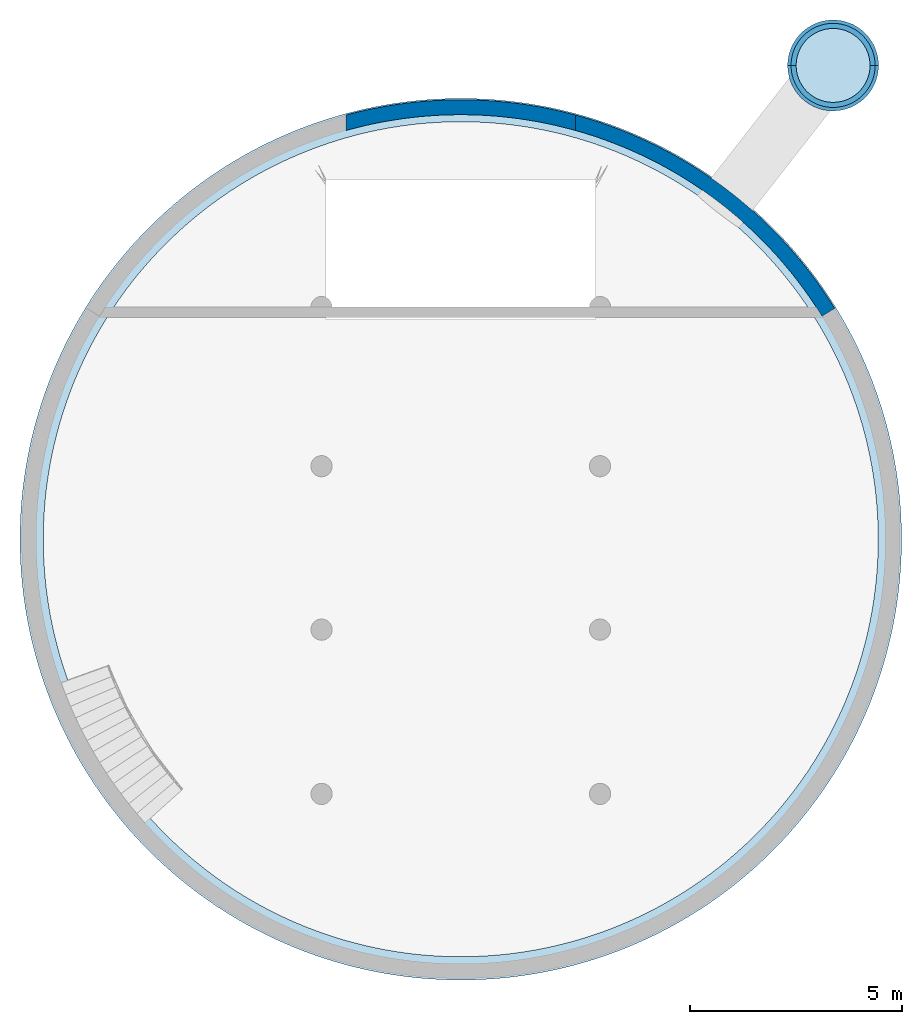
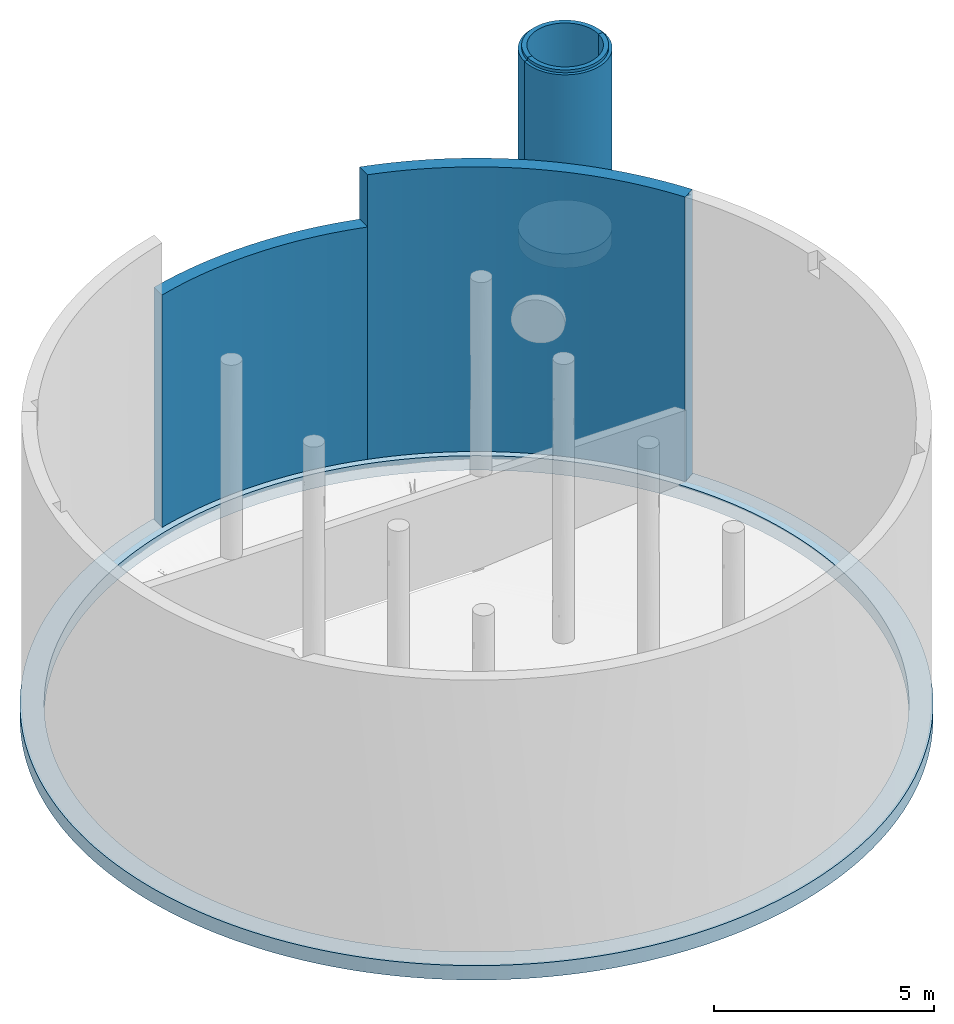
# One storey, part 1 of 5: 4 walls, 2 slabs, 3 openings.
"""IFC2X3 building model written with IfcOpenShell, lengths in centimetres."""

from ifc_helpers import new_model, entity, si_unit, converted_unit, derived_unit, direction, frame, frame_2d, origin, origin_2d_with_axis, place, context, subcontext, project, spatial, polyline, circle_curve, parameter, trimmed, segment, composite_curve, circle, outline, extrude, clip, halfspace, bounded_halfspace, material, layer, layer_set, layer_usage, type_object, element, save


model = new_model("IFC2X3")

# Units and contexts
model_context = context("Model", 3, precision=0.001, world=origin(), true_north=direction((6.12303176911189e-17, 1.0)))
body_context = subcontext(model_context, "Body", "Model", "MODEL_VIEW")
ifc_project = project(units=[si_unit("LENGTHUNIT", "METRE", prefix="CENTI"), si_unit("AREAUNIT", "SQUARE_METRE"), si_unit("VOLUMEUNIT", "CUBIC_METRE"), converted_unit("PLANEANGLEUNIT", "DEGREE", entity("IfcRatioMeasure", 0.0174532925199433), si_unit("PLANEANGLEUNIT", "RADIAN"), dimensions=[0, 0, 0, 0, 0, 0, 0]), si_unit("MASSUNIT", "GRAM", prefix="KILO"), derived_unit("MASSDENSITYUNIT", [(si_unit("MASSUNIT", "GRAM", prefix="KILO"), 1), (si_unit("LENGTHUNIT", "METRE"), -3)]), si_unit("TIMEUNIT", "SECOND"), si_unit("FREQUENCYUNIT", "HERTZ"), si_unit("THERMODYNAMICTEMPERATUREUNIT", "DEGREE_CELSIUS"), derived_unit("THERMALTRANSMITTANCEUNIT", [(si_unit("MASSUNIT", "GRAM", prefix="KILO"), 1), (si_unit("THERMODYNAMICTEMPERATUREUNIT", "KELVIN"), -1), (si_unit("TIMEUNIT", "SECOND"), -3)]), derived_unit("VOLUMETRICFLOWRATEUNIT", [(si_unit("LENGTHUNIT", "METRE"), 3), (si_unit("TIMEUNIT", "SECOND"), -1)]), si_unit("ELECTRICCURRENTUNIT", "AMPERE"), si_unit("ELECTRICVOLTAGEUNIT", "VOLT"), si_unit("POWERUNIT", "WATT"), si_unit("FORCEUNIT", "NEWTON", prefix="KILO"), si_unit("ILLUMINANCEUNIT", "LUX"), si_unit("LUMINOUSFLUXUNIT", "LUMEN"), si_unit("LUMINOUSINTENSITYUNIT", "CANDELA"), derived_unit("USERDEFINED", [(si_unit("MASSUNIT", "GRAM", prefix="KILO"), -1), (si_unit("LENGTHUNIT", "METRE"), -2), (si_unit("TIMEUNIT", "SECOND"), 3), (si_unit("LUMINOUSFLUXUNIT", "LUMEN"), 1)]), derived_unit("LINEARVELOCITYUNIT", [(si_unit("LENGTHUNIT", "METRE"), 1), (si_unit("TIMEUNIT", "SECOND"), -1)]), si_unit("PRESSUREUNIT", "PASCAL"), derived_unit("USERDEFINED", [(si_unit("LENGTHUNIT", "METRE"), -2), (si_unit("MASSUNIT", "GRAM", prefix="KILO"), 1), (si_unit("TIMEUNIT", "SECOND"), -2)])], contexts=[model_context])

# Site, building, storey
site_placement = place(None, origin())
site = spatial("IfcSite", under=ifc_project, at=site_placement, Name="Default", CompositionType="ELEMENT")
building_placement = place(site_placement, origin())
building = spatial("IfcBuilding", under=site, at=building_placement, CompositionType="ELEMENT")
storey_placement = place(building_placement, frame((0.0, 0.0, -870.0)))
storey = spatial("IfcBuildingStorey", under=building, at=storey_placement, Name="Niveau haut radier", CompositionType="ELEMENT", Elevation=-870.000000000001)

# Slab, opening
ifc_material_1 = material(Name="Béton, coulé sur place")
ifc_layer_1 = layer(ifc_material_1, 40.0)
ifc_layer_set_1 = layer_set([ifc_layer_1], Name="Sol:Béton - 400mm JBTP")
ifc_layer_usage_1 = layer_usage(ifc_layer_set_1, "AXIS3", "POSITIVE", 0.0)
slab_1_placement = place(storey_placement, frame((-1038.25326691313, -1038.25326691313, -40.0)))
slab_1 = element("IfcSlab", 1, at=slab_1_placement, inside=storey, material=ifc_layer_usage_1, Name="Sol:Béton - 400mm JBTP", ObjectType="Sol:Béton - 400mm JBTP", PredefinedType="FLOOR", context=body_context, shape_type="SweptSolid", body=[
    extrude(circle(Radius=1038.25326691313, at=origin_2d_with_axis()), frame((1038.25326691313, 1038.25326691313, 40.0), z_axis=(0.0, 0.0, -1.0), x_axis=(-1.0, 0.0, 0.0)), (0.0, 0.0, 1.0), 40.0),
])
opening_1_placement = place(slab_1_placement, frame((1038.25326691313, 1038.25326691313, 40.0)))
element("IfcOpeningElement", 2, at=opening_1_placement, cuts=slab_1, Name="Sol:Béton - 400mm JBTP:2", ObjectType="Opening", context=body_context, shape_type="SweptSolid", body=[
    extrude(circle(Radius=983.253266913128, at=origin_2d_with_axis()), frame((0.0, 0.0, 0.0), z_axis=(0.0, 0.0, -1.0), x_axis=(1.0, 0.0, 0.0)), (0.0, 0.0, 1.0), 40.0),
])

# Slab
ifc_layer_usage_2 = layer_usage(ifc_layer_set_1, "AXIS3", "POSITIVE", 0.0)
slab_2_placement = place(storey_placement, origin())
element("IfcSlab", 3, at=slab_2_placement, inside=storey, material=ifc_layer_usage_2, Name="Sol:Béton - 400mm JBTP", ObjectType="Sol:Béton - 400mm JBTP", PredefinedType="FLOOR", context=body_context, shape_type="SweptSolid", body=[
    extrude(circle(Radius=107.0, at=frame_2d((-1.0828671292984e-13, 2.16573425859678e-13), x_axis=(1.0, 0.0))), frame((876.967590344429, 1116.02359988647, 340.0), z_axis=(0.0, 0.0, -1.0), x_axis=(-1.0, 0.0, 0.0)), (0.0, 0.0, 1.0), 40.0),
])

# Walls
ifc_material_2 = material(Name="Mur par défaut")
ifc_layer_2 = layer(ifc_material_2, 35.0)
ifc_layer_set_2 = layer_set([ifc_layer_2], Name="Mur de base:Générique  - 350 mm 2")
ifc_layer_usage_3 = layer_usage(ifc_layer_set_2, "AXIS2", "POSITIVE", -17.5)
wall_type_1 = type_object("IfcWallType", Name="Mur de base:Générique  - 350 mm 2", PredefinedType="NOTDEFINED", material=ifc_layer_set_2)
wall_1_placement = place(storey_placement, frame((265.434782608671, 982.268103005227, 0.0)))
element("IfcWallStandardCase", 4, at=wall_1_placement, inside=storey, type_object=wall_type_1, material=ifc_layer_usage_3, Name="Mur de base:Générique  - 350 mm 2", ObjectType="Mur de base:Générique  - 350 mm 2", context=body_context, shape_type="SweptSolid", body=[
    extrude(outline(composite_curve([segment(trimmed(circle_curve(frame_2d((-265.434782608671, -982.268103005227), x_axis=(1.0, 0.0)), 1035.0), [parameter(31.6889210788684)], [parameter(74.8783346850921)], True, "PARAMETER"), True, "CONTINUOUS"), segment(polyline([(4.56521739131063, 16.8940459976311), (4.56521739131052, -19.4077808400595)]), True, "CONTINUOUS"), segment(trimmed(circle_curve(frame_2d((-265.434782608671, -982.268103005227), x_axis=(1.0, 0.0)), 1000.0), [parameter(31.6889210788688)], [parameter(74.335733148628)], True, "PARAMETER"), False, "CONTINUOUS"), segment(polyline([(585.477918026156, -456.960977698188), (615.259862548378, -438.575228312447)]), True, "CONTINUOUS")], self_intersect=False)), origin(), (0.0, 0.0, 1.0), 790.000000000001),
])
ifc_layer_usage_4 = layer_usage(ifc_layer_set_2, "AXIS2", "POSITIVE", -17.5)
wall_2_placement = place(storey_placement, frame((-274.72500000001, 979.71037780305, 0.0)))
element("IfcWallStandardCase", 5, at=wall_2_placement, inside=storey, type_object=wall_type_1, material=ifc_layer_usage_4, Name="Mur de base:Générique  - 350 mm 2", ObjectType="Mur de base:Générique  - 350 mm 2", context=body_context, shape_type="Clipping", body=[
    clip(clip(extrude(outline(composite_curve([segment(trimmed(circle_curve(frame_2d((274.72500000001, -979.710377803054), x_axis=(1.0, 0.0)), 1035.0), [parameter(74.3357331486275)], [parameter(105.664266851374)], True, "PARAMETER"), True, "CONTINUOUS"), segment(polyline([(-4.72499999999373, 16.8500556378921), (4.72500000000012, -16.8500556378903)]), True, "CONTINUOUS"), segment(trimmed(circle_curve(frame_2d((274.72500000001, -979.710377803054), x_axis=(1.0, 0.0)), 1000.0), [parameter(74.3357331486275)], [parameter(105.664266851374)], True, "PARAMETER"), False, "CONTINUOUS"), segment(polyline([(544.724999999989, -16.8500556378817), (554.174999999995, 16.8500556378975)]), True, "CONTINUOUS")], self_intersect=False)), origin(), (0.0, 0.0, 1.0), 645.000000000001), bounded_halfspace(frame((4.72500000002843, -16.8500556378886, 645.0), z_axis=(-1.0, 0.0, 0.0), x_axis=(0.0, -1.0, 0.0)), False, frame((4.72500000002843, -16.8500556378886, 645.0), z_axis=(-1.0, 0.0, 0.0), x_axis=(0.0, -1.0, 0.0)), polyline([(0.0, 0.0), (-36.301826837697, 0.0), (-36.301826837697, -645.0), (0.0, -645.0), (0.0, 0.0)]))), bounded_halfspace(frame((544.724999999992, 19.4517711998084, 645.0), z_axis=(1.0, 0.0, 0.0), x_axis=(0.0, 1.0, 0.0)), False, frame((544.724999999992, 19.4517711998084, 645.0), z_axis=(1.0, 0.0, 0.0), x_axis=(0.0, 1.0, 0.0)), polyline([(0.0, 0.0), (-36.3018268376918, 0.0), (-36.3018268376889, -645.0), (0.0, -645.0), (0.0, 0.0)]))),
])

# Wall, opening
ifc_layer_3 = layer(ifc_material_2, 20.0)
ifc_layer_set_3 = layer_set([ifc_layer_3], Name="Mur de base:Voile béton ep. 15cm")
ifc_layer_usage_5 = layer_usage(ifc_layer_set_3, "AXIS2", "NEGATIVE", 10.0)
wall_type_2 = type_object("IfcWallType", Name="Mur de base:Voile béton ep. 15cm", PredefinedType="STANDARD", material=ifc_layer_set_3)
wall_3_placement = place(storey_placement, frame((973.967590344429, 1116.02359988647, 340.0)))
wall_3 = element("IfcWallStandardCase", 6, at=wall_3_placement, inside=storey, type_object=wall_type_2, material=ifc_layer_usage_5, Name="Mur de base:Voile béton ep. 15cm", ObjectType="Mur de base:Voile béton ep. 15cm", context=body_context, shape_type="Clipping", body=[
    clip(extrude(outline(composite_curve([segment(trimmed(circle_curve(frame_2d((-97.0, 0.0), x_axis=(1.0, 0.0)), 87.0), [parameter(0.0)], [parameter(180.0)], True, "PARAMETER"), False, "CONTINUOUS"), segment(polyline([(-10.0, 0.0), (10.0, 0.0)]), True, "CONTINUOUS"), segment(trimmed(circle_curve(frame_2d((-97.0, 0.0), x_axis=(1.0, 0.0)), 107.0), [parameter(0.0)], [parameter(180.0)], True, "PARAMETER"), True, "CONTINUOUS"), segment(polyline([(-204.0, 0.0), (-184.0, 0.0)]), True, "CONTINUOUS")], self_intersect=False)), origin(), (0.0, 0.0, 1.0), 505.000000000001), halfspace(frame((-184.0, 0.0, 505.0), z_axis=(0.0, 0.0, -1.0), x_axis=(0.0, -1.0, 0.0)), True)),
])
opening_2_placement = place(wall_3_placement, origin())
element("IfcOpeningElement", 7, at=opening_2_placement, cuts=wall_3, Name="Mur de base:Voile béton ep. 15cm", ObjectType="Recess", context=body_context, shape_type="SweptSolid", body=[
    extrude(outline(composite_curve([segment(trimmed(circle_curve(origin_2d_with_axis(), 107.0), [parameter(180.0)], [parameter(360.0)], True, "PARAMETER"), True, "CONTINUOUS"), segment(polyline([(107.0, 0.0), (99.0, 0.0)]), True, "CONTINUOUS"), segment(trimmed(circle_curve(origin_2d_with_axis(), 99.0000000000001), [parameter(180.0)], [parameter(360.0)], True, "PARAMETER"), False, "CONTINUOUS"), segment(polyline([(-99.0, 0.0), (-107.0, 0.0)]), True, "CONTINUOUS")], self_intersect=False)), frame((-97.0, 0.0, 497.0), z_axis=(0.0, 0.0, -1.0), x_axis=(1.0, 0.0, 0.0)), (0.0, 0.0, -1.0), 8.0),
])

ifc_layer_usage_6 = layer_usage(ifc_layer_set_3, "AXIS2", "NEGATIVE", 10.0)
wall_4_placement = place(storey_placement, frame((779.967590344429, 1116.02359988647, 340.0)))
wall_4 = element("IfcWallStandardCase", 8, at=wall_4_placement, inside=storey, type_object=wall_type_2, material=ifc_layer_usage_6, Name="Mur de base:Voile béton ep. 15cm", ObjectType="Mur de base:Voile béton ep. 15cm", context=body_context, shape_type="Clipping", body=[
    clip(extrude(outline(composite_curve([segment(trimmed(circle_curve(frame_2d((97.0, 0.0), x_axis=(1.0, 0.0)), 87.0), [parameter(180.0)], [parameter(0.0)], True, "PARAMETER"), False, "CONTINUOUS"), segment(polyline([(10.0, 0.0), (-10.0, 0.0)]), True, "CONTINUOUS"), segment(trimmed(circle_curve(frame_2d((97.0, 0.0), x_axis=(1.0, 0.0)), 107.0), [parameter(180.0)], [parameter(0.0)], True, "PARAMETER"), True, "CONTINUOUS"), segment(polyline([(204.0, 0.0), (184.0, 0.0)]), True, "CONTINUOUS")], self_intersect=False)), origin(), (0.0, 0.0, 1.0), 505.000000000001), halfspace(frame((184.0, 0.0, 505.0), z_axis=(0.0, 0.0, -1.0), x_axis=(0.0, -1.0, 0.0)), True)),
])
opening_3_placement = place(wall_4_placement, origin())
element("IfcOpeningElement", 9, at=opening_3_placement, cuts=wall_4, Name="Mur de base:Voile béton ep. 15cm", ObjectType="Recess", context=body_context, shape_type="SweptSolid", body=[
    extrude(outline(composite_curve([segment(trimmed(circle_curve(origin_2d_with_axis(), 107.0), [parameter(180.0)], [parameter(360.0)], True, "PARAMETER"), True, "CONTINUOUS"), segment(polyline([(107.0, 0.0), (99.0, 0.0)]), True, "CONTINUOUS"), segment(trimmed(circle_curve(origin_2d_with_axis(), 99.0), [parameter(180.0)], [parameter(360.0)], True, "PARAMETER"), False, "CONTINUOUS"), segment(polyline([(-99.0, 0.0), (-107.0, 0.0)]), True, "CONTINUOUS")], self_intersect=False)), frame((97.0, 0.0, 497.0), z_axis=(0.0, 0.0, -1.0), x_axis=(-1.0, 0.0, 0.0)), (0.0, 0.0, -1.0), 8.0),
])

save(model, "model.ifc")
